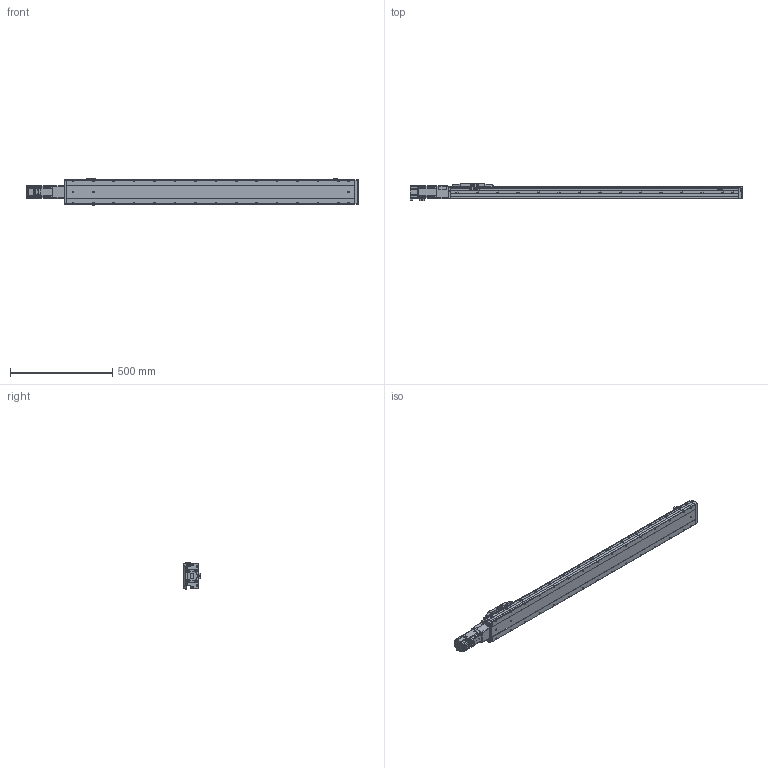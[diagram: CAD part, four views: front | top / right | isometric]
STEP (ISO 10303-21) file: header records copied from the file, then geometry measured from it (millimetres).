
FILE_DESCRIPTION (( 'STEP AP214' ), '1' );
FILE_NAME ('CTH12-L10-S1200-BC-C40（简）.STEP', '2023-02-06T05:19:06', ( '' ), ( '' ), 'SwSTEP 2.0', 'SolidWorks 2018', '' );
FILE_SCHEMA (( 'AUTOMOTIVE_DESIGN' ));
Length unit declared in the file: millimetre
Products named in the file (23): M5蹟隊; CTH12萇儂釱; CTH12覜茼え; 蚐郲; CTH12賑怢郪磁; 400W萇儂; CTH12賑怢ㄗ潠ㄘ; 内六角圆柱头螺钉M3-1; CTH12-BC-03_1; 嫖萇羲壽郪磁1333; 嫖萇羲壽郪磁2; CTH12; 湮賑怢  裔赽-1(CTH12)賑怢; CTH12-L10-S1200-BC-C40（简）; CTH12底座-L1411简（1200行程）; CTH12_body_3; 内六角圆柱头螺钉M3; PM-Y45; CTH12-BC-06-T40（cth8-bc-06-t40-G）_1; CTH嫖萇羲壽假蚾啣; 内六角圆柱头螺钉M3-2; hex nuts, style 1-grades ab gb_GB_FASTENER_NUT_SNAB1 M3-N; CTH12-BL_body_4
Assembly tree (43 placements, depth 4):
  CTH12-L10-S1200-BC-C40（简）
    CTH12底座-L1411简（1200行程）
    蚐郲  x2
    CTH12-BL_body_4
    CTH12_body_3
    CTH12賑怢郪磁
      CTH12
        湮賑怢  裔赽-1(CTH12)賑怢
        CTH12賑怢ㄗ潠ㄘ
    CTH12覜茼え
    嫖萇羲壽郪磁2
      CTH嫖萇羲壽假蚾啣
      PM-Y45
      内六角圆柱头螺钉M3-1  x2
      内六角圆柱头螺钉M3-2  x2
      hex nuts, style 1-grades ab gb_GB_FASTENER_NUT_SNAB1 M3-N  x2
    CTH12萇儂釱
      CTH12-BC-03_1
      CTH12-BC-06-T40（cth8-bc-06-t40-G）_1
    嫖萇羲壽郪磁1333  x2
      CTH嫖萇羲壽假蚾啣
      PM-Y45
      内六角圆柱头螺钉M3-2
      内六角圆柱头螺钉M3-1
      hex nuts, style 1-grades ab gb_GB_FASTENER_NUT_SNAB1 M3-N
    内六角圆柱头螺钉M3  x6
    400W萇儂
    M5蹟隊  x4
Bounding box: 1625.8 x 86.5 x 131.52 mm (x, y, z)
Volume: 9595400.7 mm3; surface area: 827558.1 mm2
Topology: 45 solids, 47 shells, 3149 faces, 7835 edges, 4911 vertices
Faces by surface type: plane 1536, cylinder 932, cone 407, bspline 146, torus 124, sphere 4
Entity records: 98920 total; most frequent: CARTESIAN_POINT 33638, ORIENTED_EDGE 12772, DIRECTION 12481, EDGE_CURVE 6386, AXIS2_PLACEMENT_3D 4389, VERTEX_POINT 4015, VECTOR 3703, LINE 3703
